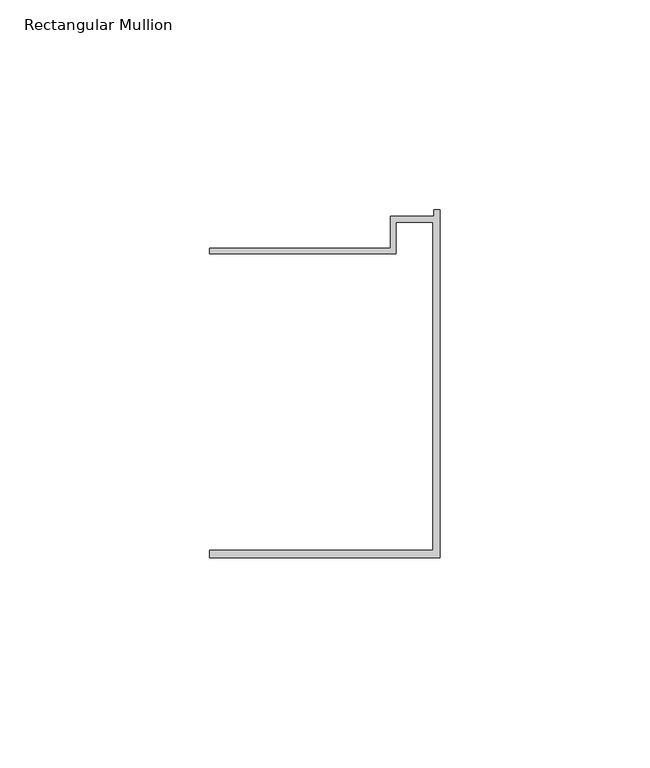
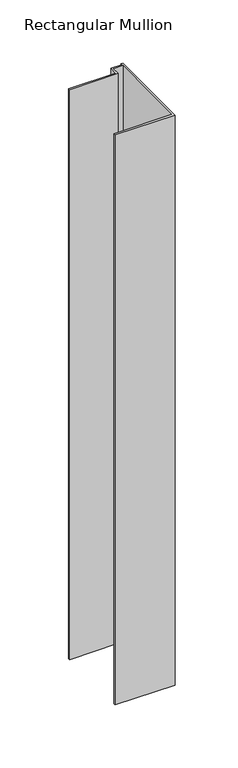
"""IFC4 building model written with IfcOpenShell, lengths in millimetres: member geometry, Rectangular Mullion : Danpal Top Mullion."""

import ifcopenshell
import ifcopenshell.guid

model = None  # the IFC model being written
_history = None  # IfcOwnerHistory: only IFC2X3 demands one
_inside = {}  # id of a spatial element -> (the spatial element, [elements in it])
_under = {}  # id of a project, library or spatial element -> (it, [spatial elements below it])
_declared = {}  # id of a project -> (the project, [libraries it declares])
_typed = {}  # id of a type object -> (the type object, [elements of that type])
_made_of = {}  # id of a material, layer set ... -> (it, [elements and type objects made of it])


def new_model(schema):
    """Start an empty IFC model of exactly this schema.

    Asked for "IFC4X3", IfcOpenShell would pick the latest addendum, in which some entities
    have other attributes; the version numbers below select the first issue.
    IFC2X3 requires an IfcOwnerHistory on every rooted entity: one is made here for all.
    """
    global model, _history
    if schema == "IFC4X3":
        model = ifcopenshell.file(schema_version=(4, 3, 0, 0))
    else:
        model = ifcopenshell.file(schema=schema)
    _inside.clear()
    _under.clear()
    _declared.clear()
    _typed.clear()
    _made_of.clear()
    _history = None
    if model.schema == "IFC2X3":
        org = make("IfcOrganization", Name="unknown")
        user = make(
            "IfcPersonAndOrganization",
            ThePerson=make("IfcPerson", FamilyName="unknown"),
            TheOrganization=org,
        )
        app = make(
            "IfcApplication",
            ApplicationDeveloper=org,
            Version="unknown",
            ApplicationFullName="unknown",
            ApplicationIdentifier="unknown",
        )
        _history = make(
            "IfcOwnerHistory",
            OwningUser=user,
            OwningApplication=app,
            ChangeAction="ADDED",
            CreationDate=0,
        )
    return model


def make(cls, **values):
    """One entity of the class cls with the attributes given. An attribute that is None is left unset."""
    return model.create_entity(
        cls, **{name: value for name, value in values.items() if value is not None}
    )


def rooted(cls, **values):
    """An entity with a GlobalId (a new one), such as an element, a storey or a relation."""
    return make(cls, GlobalId=ifcopenshell.guid.new(), OwnerHistory=_history, **values)


def si_unit(unit_type, name, prefix=None):
    """IfcSIUnit, for example si_unit("LENGTHUNIT", "METRE", prefix="MILLI")."""
    return make("IfcSIUnit", UnitType=unit_type, Prefix=prefix, Name=name)


def assignment(units):
    """IfcUnitAssignment: the units of a project."""
    return None if units is None else make("IfcUnitAssignment", Units=units)


def point(xyz):
    """IfcCartesianPoint."""
    return None if xyz is None else make("IfcCartesianPoint", Coordinates=xyz)


def direction(xyz):
    """IfcDirection."""
    return None if xyz is None else make("IfcDirection", DirectionRatios=xyz)


def frame(location, z_axis=None, x_axis=None):
    """IfcAxis2Placement3D, a coordinate frame: its origin and axes. An axis left out is left unset."""
    return make(
        "IfcAxis2Placement3D",
        Location=point(location),
        Axis=direction(z_axis),
        RefDirection=direction(x_axis),
    )


def origin():
    """The frame at (0, 0, 0) with its axes left unset."""
    return frame((0.0, 0.0, 0.0))


def place(relative_to, where):
    """IfcLocalPlacement: puts the frame where relative to a parent placement (None: the world)."""
    return make(
        "IfcLocalPlacement", PlacementRelTo=relative_to, RelativePlacement=where
    )


def context(
    kind, dimensions, precision=None, world=None, true_north=None, identifier=None
):
    """IfcGeometricRepresentationContext, for example the 3D "Model" context."""
    return make(
        "IfcGeometricRepresentationContext",
        ContextIdentifier=identifier,
        ContextType=kind,
        CoordinateSpaceDimension=dimensions,
        Precision=precision,
        WorldCoordinateSystem=world,
        TrueNorth=true_north,
    )


def project(units=None, contexts=None):
    """IfcProject with its units and contexts."""
    return rooted(
        "IfcProject",
        Name="project",
        RepresentationContexts=contexts,
        UnitsInContext=assignment(units),
    )


def spatial(cls, under=None, at=None, **own):
    """A site, building, storey or space (cls), placed at a placement, below another one or the project."""
    s = rooted(cls, ObjectPlacement=at, **own)
    if under is not None:
        _under.setdefault(under.id(), (under, []))[1].append(s)
    return s


def polyline(points):
    """IfcPolyline through the points."""
    return make("IfcPolyline", Points=[point(p) for p in points])


def outline(outer, holes=None, kind="AREA"):
    """IfcArbitraryClosedProfileDef: a profile drawn as a closed curve; with holes, ...WithVoids."""
    if holes is None:
        return make("IfcArbitraryClosedProfileDef", ProfileType=kind, OuterCurve=outer)
    return make(
        "IfcArbitraryProfileDefWithVoids",
        ProfileType=kind,
        OuterCurve=outer,
        InnerCurves=holes,
    )


def extrude(swept, where, along, depth):
    """IfcExtrudedAreaSolid: the profile swept, set in the frame where, extruded along a direction by depth."""
    return make(
        "IfcExtrudedAreaSolid",
        SweptArea=swept,
        Position=where,
        ExtrudedDirection=direction(along),
        Depth=depth,
    )


def shape(context_of_items, identifier, shape_type, items):
    """IfcShapeRepresentation: the items that make up one representation, for example the "Body"."""
    return make(
        "IfcShapeRepresentation",
        ContextOfItems=context_of_items,
        RepresentationIdentifier=identifier,
        RepresentationType=shape_type,
        Items=items,
    )


def source(mapping_origin, context_of_items, identifier, shape_type, items):
    """IfcRepresentationMap: a shape defined once, which mapped items show again and again."""
    return make(
        "IfcRepresentationMap",
        MappingOrigin=mapping_origin,
        MappedRepresentation=shape(context_of_items, identifier, shape_type, items),
    )


def transform(
    local_origin,
    x_axis=None,
    y_axis=None,
    z_axis=None,
    scale=None,
    scale2=None,
    scale3=None,
    uniform=True,
):
    """IfcCartesianTransformationOperator3D, or its non-uniform kind. x_axis, y_axis, z_axis: its Axis1, 2, 3."""
    if uniform:
        return make(
            "IfcCartesianTransformationOperator3D",
            Axis1=direction(x_axis),
            Axis2=direction(y_axis),
            LocalOrigin=point(local_origin),
            Scale=scale,
            Axis3=direction(z_axis),
        )
    return make(
        "IfcCartesianTransformationOperator3DnonUniform",
        Axis1=direction(x_axis),
        Axis2=direction(y_axis),
        LocalOrigin=point(local_origin),
        Scale=scale,
        Axis3=direction(z_axis),
        Scale2=scale2,
        Scale3=scale3,
    )


def mapped(mapping_source, mapping_target):
    """IfcMappedItem: shows the shape of a source again, moved by a transform."""
    return make(
        "IfcMappedItem", MappingSource=mapping_source, MappingTarget=mapping_target
    )


def made_of(thing, what):
    """Note that an element or type object is made of a material, layer set ...; save() writes the relation."""
    if what is not None:
        _made_of.setdefault(what.id(), (what, []))[1].append(thing)
    return thing


def element(
    cls,
    number,
    at=None,
    inside=None,
    cuts=None,
    type_object=None,
    material=None,
    context=None,
    identifier="Body",
    shape_type=None,
    held_by="IfcProductDefinitionShape",
    body=None,
    shapes=None,
    **own,
):
    """One element of the class cls, such as IfcWall. Its Tag is "e" and its number.

    at: its placement. inside: the storey or other place that contains it. cuts: it is an
    opening in that element (IfcRelVoidsElement). A single representation is given by context,
    identifier, shape_type and body (its items); several are given by shapes. held_by: the class
    of the entity that holds the representations. save() writes the other relations.
    """
    e = rooted(cls, Tag="e%d" % number, ObjectPlacement=at, **own)
    if body is not None:
        shapes = [shape(context, identifier, shape_type, body)]
    if shapes is not None:
        e.Representation = make(held_by, Representations=shapes)
    if inside is not None:
        _inside.setdefault(inside.id(), (inside, []))[1].append(e)
    if cuts is not None:
        rooted(
            "IfcRelVoidsElement", RelatingBuildingElement=cuts, RelatedOpeningElement=e
        )
    if type_object is not None:
        _typed.setdefault(type_object.id(), (type_object, []))[1].append(e)
    return made_of(e, material)


def aggregate(whole, parts):
    """IfcRelAggregates: a whole, such as a stair, and the parts it consists of."""
    return rooted("IfcRelAggregates", RelatingObject=whole, RelatedObjects=parts)


def save(model, path):
    """Write the relations noted so far, then the file.

    IfcRelAggregates (storeys below a building ...), IfcRelContainedInSpatialStructure (elements
    in a storey), IfcRelDefinesByType, IfcRelAssociatesMaterial and IfcRelDeclares: one each for
    every whole, place, type object, material and project.
    """
    for whole, parts in _under.values():
        aggregate(whole, parts)
    for where, things in _inside.values():
        rooted(
            "IfcRelContainedInSpatialStructure",
            RelatedElements=things,
            RelatingStructure=where,
        )
    for kind, things in _typed.values():
        rooted("IfcRelDefinesByType", RelatedObjects=things, RelatingType=kind)
    for what, things in _made_of.values():
        rooted("IfcRelAssociatesMaterial", RelatedObjects=things, RelatingMaterial=what)
    for by, libraries in _declared.values():
        rooted("IfcRelDeclares", RelatingContext=by, RelatedDefinitions=libraries)
    model.write(path)


def rectangular_mullion_2bbd7e5c(model_context):
    return source(origin(), model_context, "Body", "SweptSolid", [
        extrude(outline(polyline([(-54.8546474, 80.8144448), (-54.8546474, 82.2144448), (-11.7999842, 82.2144448), (-11.7999842, 89.8206003), (-1.4, 89.8206003), (-1.4, 91.3144448), (0.0, 91.3144448), (0.0, 8.4568509), (-54.8546474, 8.4568509), (-54.8546474, 10.2068341), (-1.6, 10.2068341), (-1.6, 88.4144116), (-10.3999842, 88.4144116), (-10.3999842, 80.8144448), (-54.8546474, 80.8144448)])), frame((0.0, 0.0, -551.6354657), z_axis=(0.0, 0.0, 1.0), x_axis=(1.0, 0.0, 0.0)), (0.0, 0.0, 1.0), 551.6354657),
    ])


if __name__ == "__main__":
    model = new_model("IFC4")
    model_context = context("Model", 3, world=origin())
    ifc_project = project(units=[si_unit("LENGTHUNIT", "METRE", prefix="MILLI")], contexts=[model_context])
    site = spatial("IfcSite", under=ifc_project)
    building = spatial("IfcBuilding", under=site)
    placement = place(None, origin())
    rectangular_mullion_shape = rectangular_mullion_2bbd7e5c(model_context)
    element("IfcMember", 1, ObjectType="Rectangular Mullion : Danpal Top Mullion", at=placement, inside=building, context=model_context, shape_type="MappedRepresentation", body=[
        mapped(rectangular_mullion_shape, transform((0.0, 0.0, 0.0), x_axis=(1.0, 0.0, 0.0), y_axis=(0.0, 1.0, 0.0), z_axis=(0.0, 0.0, 1.0))),
    ])
    save(model, "model.ifc")
